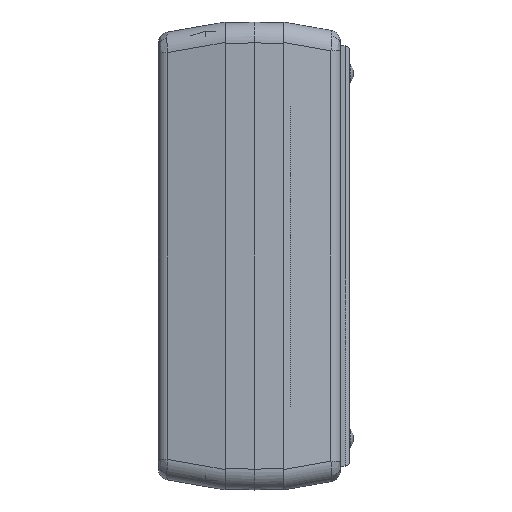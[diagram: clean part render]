
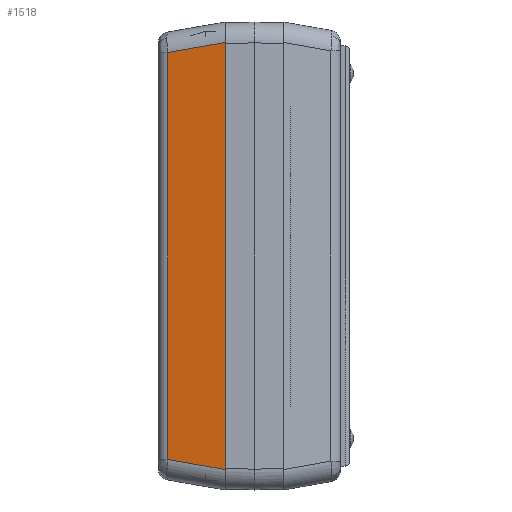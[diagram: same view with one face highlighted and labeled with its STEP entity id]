
A CAD part, left-side view. The second image highlights one B-rep face of the part: STEP entity #1518.
In plain terms, the highlighted planar face has unit normal (-0.985, 0.174, 0).
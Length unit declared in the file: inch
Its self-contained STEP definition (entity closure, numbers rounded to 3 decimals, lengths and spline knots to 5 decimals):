
#998 = VECTOR ( 'NONE', #4326, 39.37008 ) ;
#1026 = LINE ( 'NONE', #20526, #32313 ) ;
#1513 = VECTOR ( 'NONE', #4279, 39.37008 ) ;
#1518 = ADVANCED_FACE ( 'NONE', ( #21060 ), #6874, .T. ) ;
#1893 = CARTESIAN_POINT ( 'NONE',  ( -3.75197, 0., -1.99606 ) ) ;
#2487 = DIRECTION ( 'NONE',  ( 0.171, 0.97, -0.171 ) ) ;
#2876 = EDGE_LOOP ( 'NONE', ( #26285, #14779, #22779, #18120 ) ) ;
#4279 = DIRECTION ( 'NONE',  ( -0.171, -0.97, -0.171 ) ) ;
#4326 = DIRECTION ( 'NONE',  ( 0., 0., -1. ) ) ;
#4470 = DIRECTION ( 'NONE',  ( -0.985, 0.174, 0. ) ) ;
#4773 = EDGE_CURVE ( 'NONE', #28094, #5164, #8248, .T. ) ;
#5164 = VERTEX_POINT ( 'NONE', #28424 ) ;
#6874 = PLANE ( 'NONE',  #8309 ) ;
#8248 = LINE ( 'NONE', #16877, #1513 ) ;
#8309 = AXIS2_PLACEMENT_3D ( 'NONE', #1893, #4470, #22165 ) ;
#9822 = VECTOR ( 'NONE', #2487, 39.37008 ) ;
#10666 = CARTESIAN_POINT ( 'NONE',  ( -3.66565, 0.48953, -1.73527 ) ) ;
#11676 = VERTEX_POINT ( 'NONE', #26370 ) ;
#14501 = LINE ( 'NONE', #16920, #998 ) ;
#14779 = ORIENTED_EDGE ( 'NONE', *, *, #28045, .T. ) ;
#16877 = CARTESIAN_POINT ( 'NONE',  ( -3.75708, -0.02896, -1.8267 ) ) ;
#16920 = CARTESIAN_POINT ( 'NONE',  ( -3.66565, 0.48953, -1.8954 ) ) ;
#17870 = DIRECTION ( 'NONE',  ( 0., 0., 1. ) ) ;
#18120 = ORIENTED_EDGE ( 'NONE', *, *, #4773, .T. ) ;
#18171 = LINE ( 'NONE', #22765, #9822 ) ;
#19431 = EDGE_CURVE ( 'NONE', #5164, #11676, #1026, .T. ) ;
#20316 = CARTESIAN_POINT ( 'NONE',  ( -3.66565, 0.48953, 1.73527 ) ) ;
#20526 = CARTESIAN_POINT ( 'NONE',  ( -3.75197, 0., -1.99606 ) ) ;
#21060 = FACE_OUTER_BOUND ( 'NONE', #2876, .T. ) ;
#22165 = DIRECTION ( 'NONE',  ( -0.174, -0.985, 0. ) ) ;
#22765 = CARTESIAN_POINT ( 'NONE',  ( -3.64022, 0.63375, 1.70984 ) ) ;
#22779 = ORIENTED_EDGE ( 'NONE', *, *, #30112, .T. ) ;
#26285 = ORIENTED_EDGE ( 'NONE', *, *, #19431, .T. ) ;
#26370 = CARTESIAN_POINT ( 'NONE',  ( -3.75197, 0., 1.82159 ) ) ;
#28045 = EDGE_CURVE ( 'NONE', #11676, #29158, #18171, .T. ) ;
#28094 = VERTEX_POINT ( 'NONE', #10666 ) ;
#28424 = CARTESIAN_POINT ( 'NONE',  ( -3.75197, 0., -1.82159 ) ) ;
#29158 = VERTEX_POINT ( 'NONE', #20316 ) ;
#30112 = EDGE_CURVE ( 'NONE', #29158, #28094, #14501, .T. ) ;
#32313 = VECTOR ( 'NONE', #17870, 39.37008 ) ;
